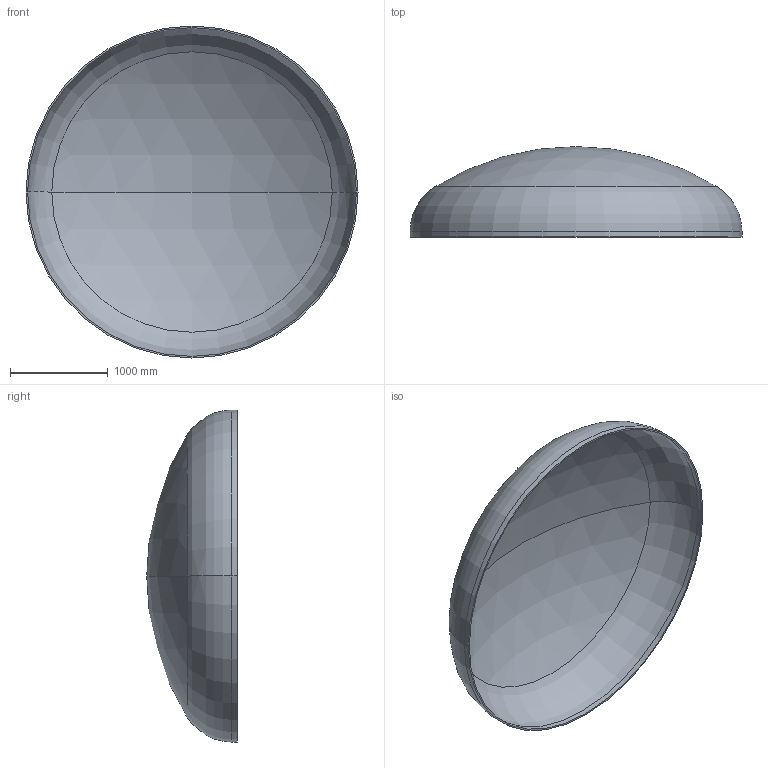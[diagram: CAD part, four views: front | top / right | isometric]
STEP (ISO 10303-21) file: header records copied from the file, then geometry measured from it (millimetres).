
FILE_DESCRIPTION (( 'STEP AP203' ), '1' );
FILE_NAME ('DIN 28013 Korbbogenform_-_Boden DIN 28013 - 3400 x 55 - I - s=16.step', '2016-07-01T19:13:39', ( '' ), ( '' ), 'SwSTEP 2.0', 'SolidWorks 2013', '' );
FILE_SCHEMA (( 'CONFIG_CONTROL_DESIGN' ));
Length unit declared in the file: millimetre
Products named in the file (1): DIN 28013 Korbbogenform_-_Boden DIN 28013 - 3400 x 55 - I - s=16
Bounding box: 3400 x 926.93 x 3400 mm (x, y, z)
Volume: 209412719.7 mm3; surface area: 26347214.2 mm2
Topology: 1 solids, 1 shells, 13 faces, 24 edges, 14 vertices
Faces by surface type: torus 4, cylinder 4, sphere 4, plane 1
Entity records: 407 total; most frequent: DIRECTION 72, CARTESIAN_POINT 52, ORIENTED_EDGE 48, AXIS2_PLACEMENT_3D 34, EDGE_CURVE 24, CIRCLE 20, VERTEX_POINT 14, EDGE_LOOP 14
